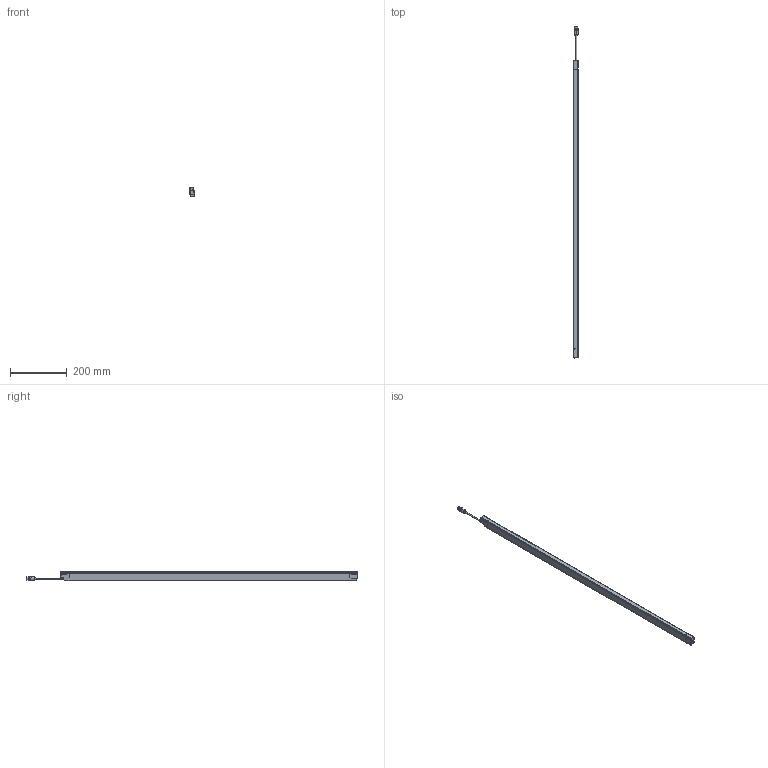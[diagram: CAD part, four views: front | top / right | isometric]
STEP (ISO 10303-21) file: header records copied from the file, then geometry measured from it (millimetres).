
FILE_DESCRIPTION((''),'2;1');
FILE_NAME('2023832','2017-01-19T',('smayer'),(''),'PRO/ENGINEER BY PARAMETRIC TECHNOLOGY CORPORATION, 2015110','PRO/ENGINEER BY PARAMETRIC TECHNOLOGY CORPORATION, 2015110','');
FILE_SCHEMA(('AUTOMOTIVE_DESIGN { 1 0 10303 214 1 1 1 1 }'));
Length unit declared in the file: millimetre
Products named in the file (1): 2023832
Bounding box: 17.36 x 1170.24 x 33.49 mm (x, y, z)
Surface area: 101846.1 mm2 (no closed solid volume)
Topology: 0 solids, 74 shells, 282 faces, 1498 edges, 1258 vertices
Faces by surface type: cylinder 129, plane 95, torus 28, cone 12, bspline 11, sphere 7
Entity records: 23483 total; most frequent: CARTESIAN_POINT 5697, DIRECTION 2247, PRESENTATION_STYLE_ASSIGNMENT 1799, ORIENTED_EDGE 1799, STYLED_ITEM 1517, CURVE_STYLE 1496, EDGE_CURVE 1495, VERTEX_POINT 1258
